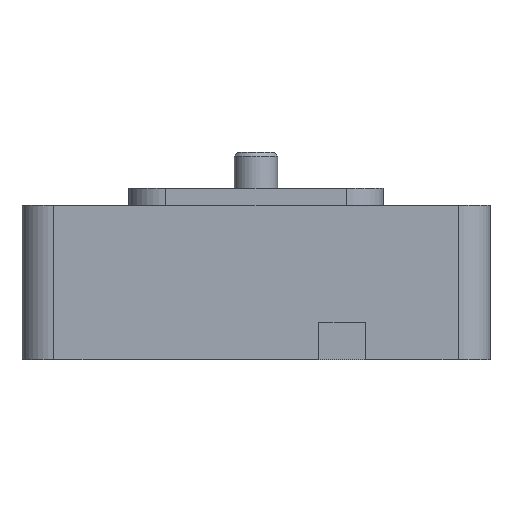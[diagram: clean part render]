
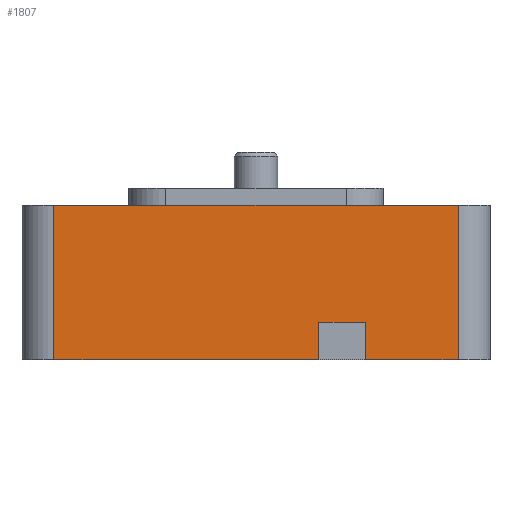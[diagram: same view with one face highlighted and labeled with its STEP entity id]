
A CAD part, front view. The second image highlights one B-rep face of the part: STEP entity #1807.
In plain terms, the highlighted planar face has unit normal (0, -1, 0).
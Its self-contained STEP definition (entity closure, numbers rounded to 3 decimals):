
#44 = PLANE('',#45);
#45 = AXIS2_PLACEMENT_3D('',#46,#47,#48);
#46 = CARTESIAN_POINT('',(-22.,-26.,-0.5));
#47 = DIRECTION('',(0.,0.,1.));
#48 = DIRECTION('',(1.,0.,0.));
#72 = CYLINDRICAL_SURFACE('',#73,3.);
#73 = AXIS2_PLACEMENT_3D('',#74,#75,#76);
#74 = CARTESIAN_POINT('',(-19.,-23.,-15.));
#75 = DIRECTION('',(0.,0.,1.));
#76 = DIRECTION('',(-1.,-0.,0.));
#100 = PLANE('',#101);
#101 = AXIS2_PLACEMENT_3D('',#102,#103,#104);
#102 = CARTESIAN_POINT('',(-22.,-26.,-15.));
#103 = DIRECTION('',(0.,0.,1.));
#104 = DIRECTION('',(1.,0.,0.));
#143 = VERTEX_POINT('',#144);
#144 = CARTESIAN_POINT('',(-19.,-26.,-0.5));
#166 = EDGE_CURVE('',#143,#167,#169,.T.);
#167 = VERTEX_POINT('',#168);
#168 = CARTESIAN_POINT('',(19.,-26.,-0.5));
#169 = SURFACE_CURVE('',#170,(#174,#181),.PCURVE_S1.);
#170 = LINE('',#171,#172);
#171 = CARTESIAN_POINT('',(-22.,-26.,-0.5));
#172 = VECTOR('',#173,1.);
#173 = DIRECTION('',(1.,0.,0.));
#174 = PCURVE('',#44,#175);
#175 = DEFINITIONAL_REPRESENTATION('',(#176),#180);
#176 = LINE('',#177,#178);
#177 = CARTESIAN_POINT('',(0.,0.));
#178 = VECTOR('',#179,1.);
#179 = DIRECTION('',(1.,0.));
#180 = ( GEOMETRIC_REPRESENTATION_CONTEXT(2) 
PARAMETRIC_REPRESENTATION_CONTEXT() REPRESENTATION_CONTEXT('2D SPACE',''
  ) );
#181 = PCURVE('',#182,#187);
#182 = PLANE('',#183);
#183 = AXIS2_PLACEMENT_3D('',#184,#185,#186);
#184 = CARTESIAN_POINT('',(-22.,-26.,-15.));
#185 = DIRECTION('',(0.,1.,0.));
#186 = DIRECTION('',(0.,0.,1.));
#187 = DEFINITIONAL_REPRESENTATION('',(#188),#192);
#188 = LINE('',#189,#190);
#189 = CARTESIAN_POINT('',(14.5,0.));
#190 = VECTOR('',#191,1.);
#191 = DIRECTION('',(0.,1.));
#192 = ( GEOMETRIC_REPRESENTATION_CONTEXT(2) 
PARAMETRIC_REPRESENTATION_CONTEXT() REPRESENTATION_CONTEXT('2D SPACE',''
  ) );
#215 = CYLINDRICAL_SURFACE('',#216,3.);
#216 = AXIS2_PLACEMENT_3D('',#217,#218,#219);
#217 = CARTESIAN_POINT('',(19.,-23.,-15.));
#218 = DIRECTION('',(0.,0.,1.));
#219 = DIRECTION('',(1.,0.,-0.));
#1018 = VERTEX_POINT('',#1019);
#1019 = CARTESIAN_POINT('',(-19.,-26.,-15.));
#1041 = EDGE_CURVE('',#1018,#143,#1042,.T.);
#1042 = SURFACE_CURVE('',#1043,(#1047,#1054),.PCURVE_S1.);
#1043 = LINE('',#1044,#1045);
#1044 = CARTESIAN_POINT('',(-19.,-26.,-15.));
#1045 = VECTOR('',#1046,1.);
#1046 = DIRECTION('',(0.,0.,1.));
#1047 = PCURVE('',#72,#1048);
#1048 = DEFINITIONAL_REPRESENTATION('',(#1049),#1053);
#1049 = LINE('',#1050,#1051);
#1050 = CARTESIAN_POINT('',(1.571,0.));
#1051 = VECTOR('',#1052,1.);
#1052 = DIRECTION('',(0.,1.));
#1053 = ( GEOMETRIC_REPRESENTATION_CONTEXT(2) 
PARAMETRIC_REPRESENTATION_CONTEXT() REPRESENTATION_CONTEXT('2D SPACE',''
  ) );
#1054 = PCURVE('',#182,#1055);
#1055 = DEFINITIONAL_REPRESENTATION('',(#1056),#1060);
#1056 = LINE('',#1057,#1058);
#1057 = CARTESIAN_POINT('',(0.,3.));
#1058 = VECTOR('',#1059,1.);
#1059 = DIRECTION('',(1.,0.));
#1060 = ( GEOMETRIC_REPRESENTATION_CONTEXT(2) 
PARAMETRIC_REPRESENTATION_CONTEXT() REPRESENTATION_CONTEXT('2D SPACE',''
  ) );
#1123 = EDGE_CURVE('',#1018,#1124,#1126,.T.);
#1124 = VERTEX_POINT('',#1125);
#1125 = CARTESIAN_POINT('',(5.9,-26.,-15.));
#1126 = SURFACE_CURVE('',#1127,(#1131,#1138),.PCURVE_S1.);
#1127 = LINE('',#1128,#1129);
#1128 = CARTESIAN_POINT('',(-22.,-26.,-15.));
#1129 = VECTOR('',#1130,1.);
#1130 = DIRECTION('',(1.,0.,0.));
#1131 = PCURVE('',#100,#1132);
#1132 = DEFINITIONAL_REPRESENTATION('',(#1133),#1137);
#1133 = LINE('',#1134,#1135);
#1134 = CARTESIAN_POINT('',(0.,0.));
#1135 = VECTOR('',#1136,1.);
#1136 = DIRECTION('',(1.,0.));
#1137 = ( GEOMETRIC_REPRESENTATION_CONTEXT(2) 
PARAMETRIC_REPRESENTATION_CONTEXT() REPRESENTATION_CONTEXT('2D SPACE',''
  ) );
#1138 = PCURVE('',#182,#1139);
#1139 = DEFINITIONAL_REPRESENTATION('',(#1140),#1144);
#1140 = LINE('',#1141,#1142);
#1141 = CARTESIAN_POINT('',(0.,0.));
#1142 = VECTOR('',#1143,1.);
#1143 = DIRECTION('',(0.,1.));
#1144 = ( GEOMETRIC_REPRESENTATION_CONTEXT(2) 
PARAMETRIC_REPRESENTATION_CONTEXT() REPRESENTATION_CONTEXT('2D SPACE',''
  ) );
#1161 = PLANE('',#1162);
#1162 = AXIS2_PLACEMENT_3D('',#1163,#1164,#1165);
#1163 = CARTESIAN_POINT('',(5.9,-28.,-15.1));
#1164 = DIRECTION('',(1.,0.,0.));
#1165 = DIRECTION('',(0.,0.,1.));
#1414 = VERTEX_POINT('',#1415);
#1415 = CARTESIAN_POINT('',(10.3,-26.,-15.));
#1428 = PLANE('',#1429);
#1429 = AXIS2_PLACEMENT_3D('',#1430,#1431,#1432);
#1430 = CARTESIAN_POINT('',(10.3,-28.,-15.1));
#1431 = DIRECTION('',(1.,0.,0.));
#1432 = DIRECTION('',(0.,0.,1.));
#1439 = EDGE_CURVE('',#1414,#1440,#1442,.T.);
#1440 = VERTEX_POINT('',#1441);
#1441 = CARTESIAN_POINT('',(19.,-26.,-15.));
#1442 = SURFACE_CURVE('',#1443,(#1447,#1454),.PCURVE_S1.);
#1443 = LINE('',#1444,#1445);
#1444 = CARTESIAN_POINT('',(-22.,-26.,-15.));
#1445 = VECTOR('',#1446,1.);
#1446 = DIRECTION('',(1.,0.,0.));
#1447 = PCURVE('',#100,#1448);
#1448 = DEFINITIONAL_REPRESENTATION('',(#1449),#1453);
#1449 = LINE('',#1450,#1451);
#1450 = CARTESIAN_POINT('',(0.,0.));
#1451 = VECTOR('',#1452,1.);
#1452 = DIRECTION('',(1.,0.));
#1453 = ( GEOMETRIC_REPRESENTATION_CONTEXT(2) 
PARAMETRIC_REPRESENTATION_CONTEXT() REPRESENTATION_CONTEXT('2D SPACE',''
  ) );
#1454 = PCURVE('',#182,#1455);
#1455 = DEFINITIONAL_REPRESENTATION('',(#1456),#1460);
#1456 = LINE('',#1457,#1458);
#1457 = CARTESIAN_POINT('',(0.,0.));
#1458 = VECTOR('',#1459,1.);
#1459 = DIRECTION('',(0.,1.));
#1460 = ( GEOMETRIC_REPRESENTATION_CONTEXT(2) 
PARAMETRIC_REPRESENTATION_CONTEXT() REPRESENTATION_CONTEXT('2D SPACE',''
  ) );
#1807 = ADVANCED_FACE('',(#1808),#182,.F.);
#1808 = FACE_BOUND('',#1809,.F.);
#1809 = EDGE_LOOP('',(#1810,#1811,#1812,#1813,#1834,#1835,#1856,#1882));
#1810 = ORIENTED_EDGE('',*,*,#1123,.F.);
#1811 = ORIENTED_EDGE('',*,*,#1041,.T.);
#1812 = ORIENTED_EDGE('',*,*,#166,.T.);
#1813 = ORIENTED_EDGE('',*,*,#1814,.F.);
#1814 = EDGE_CURVE('',#1440,#167,#1815,.T.);
#1815 = SURFACE_CURVE('',#1816,(#1820,#1827),.PCURVE_S1.);
#1816 = LINE('',#1817,#1818);
#1817 = CARTESIAN_POINT('',(19.,-26.,-15.));
#1818 = VECTOR('',#1819,1.);
#1819 = DIRECTION('',(0.,0.,1.));
#1820 = PCURVE('',#182,#1821);
#1821 = DEFINITIONAL_REPRESENTATION('',(#1822),#1826);
#1822 = LINE('',#1823,#1824);
#1823 = CARTESIAN_POINT('',(0.,41.));
#1824 = VECTOR('',#1825,1.);
#1825 = DIRECTION('',(1.,0.));
#1826 = ( GEOMETRIC_REPRESENTATION_CONTEXT(2) 
PARAMETRIC_REPRESENTATION_CONTEXT() REPRESENTATION_CONTEXT('2D SPACE',''
  ) );
#1827 = PCURVE('',#215,#1828);
#1828 = DEFINITIONAL_REPRESENTATION('',(#1829),#1833);
#1829 = LINE('',#1830,#1831);
#1830 = CARTESIAN_POINT('',(-1.571,0.));
#1831 = VECTOR('',#1832,1.);
#1832 = DIRECTION('',(-0.,1.));
#1833 = ( GEOMETRIC_REPRESENTATION_CONTEXT(2) 
PARAMETRIC_REPRESENTATION_CONTEXT() REPRESENTATION_CONTEXT('2D SPACE',''
  ) );
#1834 = ORIENTED_EDGE('',*,*,#1439,.F.);
#1835 = ORIENTED_EDGE('',*,*,#1836,.F.);
#1836 = EDGE_CURVE('',#1837,#1414,#1839,.T.);
#1837 = VERTEX_POINT('',#1838);
#1838 = CARTESIAN_POINT('',(10.3,-26.,-11.5));
#1839 = SURFACE_CURVE('',#1840,(#1844,#1850),.PCURVE_S1.);
#1840 = LINE('',#1841,#1842);
#1841 = CARTESIAN_POINT('',(10.3,-26.,-15.05));
#1842 = VECTOR('',#1843,1.);
#1843 = DIRECTION('',(0.,0.,-1.));
#1844 = PCURVE('',#182,#1845);
#1845 = DEFINITIONAL_REPRESENTATION('',(#1846),#1849);
#1846 = B_SPLINE_CURVE_WITH_KNOTS('',1,(#1847,#1848),.UNSPECIFIED.,.F.,
  .F.,(2,2),(-3.55,-0.05),.PIECEWISE_BEZIER_KNOTS.);
#1847 = CARTESIAN_POINT('',(3.5,32.3));
#1848 = CARTESIAN_POINT('',(0.,32.3));
#1849 = ( GEOMETRIC_REPRESENTATION_CONTEXT(2) 
PARAMETRIC_REPRESENTATION_CONTEXT() REPRESENTATION_CONTEXT('2D SPACE',''
  ) );
#1850 = PCURVE('',#1428,#1851);
#1851 = DEFINITIONAL_REPRESENTATION('',(#1852),#1855);
#1852 = B_SPLINE_CURVE_WITH_KNOTS('',1,(#1853,#1854),.UNSPECIFIED.,.F.,
  .F.,(2,2),(-3.55,-0.05),.PIECEWISE_BEZIER_KNOTS.);
#1853 = CARTESIAN_POINT('',(3.6,-2.));
#1854 = CARTESIAN_POINT('',(0.1,-2.));
#1855 = ( GEOMETRIC_REPRESENTATION_CONTEXT(2) 
PARAMETRIC_REPRESENTATION_CONTEXT() REPRESENTATION_CONTEXT('2D SPACE',''
  ) );
#1856 = ORIENTED_EDGE('',*,*,#1857,.F.);
#1857 = EDGE_CURVE('',#1858,#1837,#1860,.T.);
#1858 = VERTEX_POINT('',#1859);
#1859 = CARTESIAN_POINT('',(5.9,-26.,-11.5));
#1860 = SURFACE_CURVE('',#1861,(#1865,#1871),.PCURVE_S1.);
#1861 = LINE('',#1862,#1863);
#1862 = CARTESIAN_POINT('',(-8.05,-26.,-11.5));
#1863 = VECTOR('',#1864,1.);
#1864 = DIRECTION('',(1.,0.,0.));
#1865 = PCURVE('',#182,#1866);
#1866 = DEFINITIONAL_REPRESENTATION('',(#1867),#1870);
#1867 = B_SPLINE_CURVE_WITH_KNOTS('',1,(#1868,#1869),.UNSPECIFIED.,.F.,
  .F.,(2,2),(13.95,18.35),.PIECEWISE_BEZIER_KNOTS.);
#1868 = CARTESIAN_POINT('',(3.5,27.9));
#1869 = CARTESIAN_POINT('',(3.5,32.3));
#1870 = ( GEOMETRIC_REPRESENTATION_CONTEXT(2) 
PARAMETRIC_REPRESENTATION_CONTEXT() REPRESENTATION_CONTEXT('2D SPACE',''
  ) );
#1871 = PCURVE('',#1872,#1877);
#1872 = PLANE('',#1873);
#1873 = AXIS2_PLACEMENT_3D('',#1874,#1875,#1876);
#1874 = CARTESIAN_POINT('',(5.9,-28.,-11.5));
#1875 = DIRECTION('',(0.,0.,1.));
#1876 = DIRECTION('',(1.,0.,0.));
#1877 = DEFINITIONAL_REPRESENTATION('',(#1878),#1881);
#1878 = B_SPLINE_CURVE_WITH_KNOTS('',1,(#1879,#1880),.UNSPECIFIED.,.F.,
  .F.,(2,2),(13.95,18.35),.PIECEWISE_BEZIER_KNOTS.);
#1879 = CARTESIAN_POINT('',(0.,2.));
#1880 = CARTESIAN_POINT('',(4.4,2.));
#1881 = ( GEOMETRIC_REPRESENTATION_CONTEXT(2) 
PARAMETRIC_REPRESENTATION_CONTEXT() REPRESENTATION_CONTEXT('2D SPACE',''
  ) );
#1882 = ORIENTED_EDGE('',*,*,#1883,.T.);
#1883 = EDGE_CURVE('',#1858,#1124,#1884,.T.);
#1884 = SURFACE_CURVE('',#1885,(#1889,#1895),.PCURVE_S1.);
#1885 = LINE('',#1886,#1887);
#1886 = CARTESIAN_POINT('',(5.9,-26.,-15.05));
#1887 = VECTOR('',#1888,1.);
#1888 = DIRECTION('',(0.,0.,-1.));
#1889 = PCURVE('',#182,#1890);
#1890 = DEFINITIONAL_REPRESENTATION('',(#1891),#1894);
#1891 = B_SPLINE_CURVE_WITH_KNOTS('',1,(#1892,#1893),.UNSPECIFIED.,.F.,
  .F.,(2,2),(-3.55,-0.05),.PIECEWISE_BEZIER_KNOTS.);
#1892 = CARTESIAN_POINT('',(3.5,27.9));
#1893 = CARTESIAN_POINT('',(0.,27.9));
#1894 = ( GEOMETRIC_REPRESENTATION_CONTEXT(2) 
PARAMETRIC_REPRESENTATION_CONTEXT() REPRESENTATION_CONTEXT('2D SPACE',''
  ) );
#1895 = PCURVE('',#1161,#1896);
#1896 = DEFINITIONAL_REPRESENTATION('',(#1897),#1900);
#1897 = B_SPLINE_CURVE_WITH_KNOTS('',1,(#1898,#1899),.UNSPECIFIED.,.F.,
  .F.,(2,2),(-3.55,-0.05),.PIECEWISE_BEZIER_KNOTS.);
#1898 = CARTESIAN_POINT('',(3.6,-2.));
#1899 = CARTESIAN_POINT('',(0.1,-2.));
#1900 = ( GEOMETRIC_REPRESENTATION_CONTEXT(2) 
PARAMETRIC_REPRESENTATION_CONTEXT() REPRESENTATION_CONTEXT('2D SPACE',''
  ) );
